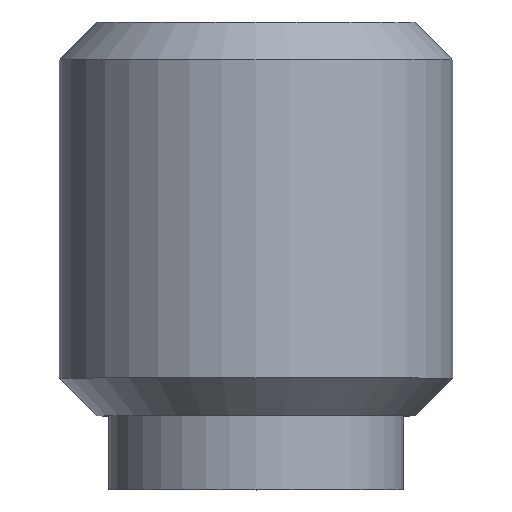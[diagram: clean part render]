
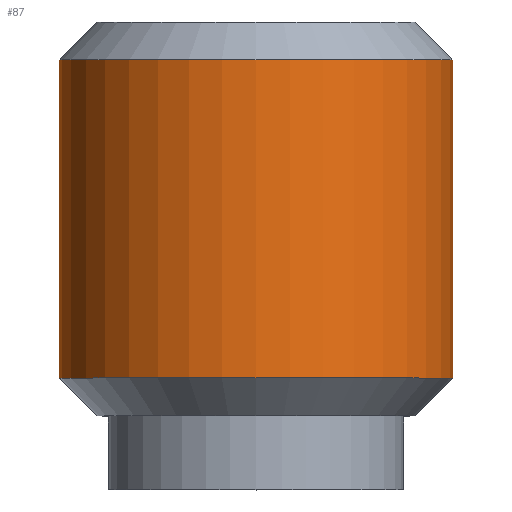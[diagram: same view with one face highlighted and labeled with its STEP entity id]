
A CAD part, top view. The second image highlights one B-rep face of the part: STEP entity #87.
In plain terms, the highlighted cylindrical face has radius 4 mm (diameter 8 mm), a full revolution.
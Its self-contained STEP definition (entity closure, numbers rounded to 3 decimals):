
#87 = ADVANCED_FACE( '', ( #118, #119 ), #120, .T. );
#118 = FACE_OUTER_BOUND( '', #152, .T. );
#119 = FACE_OUTER_BOUND( '', #153, .T. );
#120 = CYLINDRICAL_SURFACE( '', #154, 4. );
#152 = EDGE_LOOP( '', ( #238 ) );
#153 = EDGE_LOOP( '', ( #239 ) );
#154 = AXIS2_PLACEMENT_3D( '', #240, #241, #242 );
#238 = ORIENTED_EDGE( '', *, *, #270, .F. );
#239 = ORIENTED_EDGE( '', *, *, #271, .T. );
#240 = CARTESIAN_POINT( '', ( 0., 0., 0. ) );
#241 = DIRECTION( '', ( 0., 1., 0. ) );
#242 = DIRECTION( '', ( 0., 0., -1. ) );
#270 = EDGE_CURVE( '', #310, #310, #311, .T. );
#271 = EDGE_CURVE( '', #312, #312, #313, .T. );
#310 = VERTEX_POINT( '', #370 );
#311 = CIRCLE( '', #371, 4. );
#312 = VERTEX_POINT( '', #372 );
#313 = CIRCLE( '', #373, 4. );
#370 = CARTESIAN_POINT( '', ( 0., 2.267, -4. ) );
#371 = AXIS2_PLACEMENT_3D( '', #404, #405, #406 );
#372 = CARTESIAN_POINT( '', ( 0., 8.733, -4. ) );
#373 = AXIS2_PLACEMENT_3D( '', #407, #408, #409 );
#404 = CARTESIAN_POINT( '', ( 0., 2.267, 0. ) );
#405 = DIRECTION( '', ( 0., -1., 0. ) );
#406 = DIRECTION( '', ( 0., 0., -1. ) );
#407 = CARTESIAN_POINT( '', ( 0., 8.733, 0. ) );
#408 = DIRECTION( '', ( 0., -1., 0. ) );
#409 = DIRECTION( '', ( 0., 0., -1. ) );
